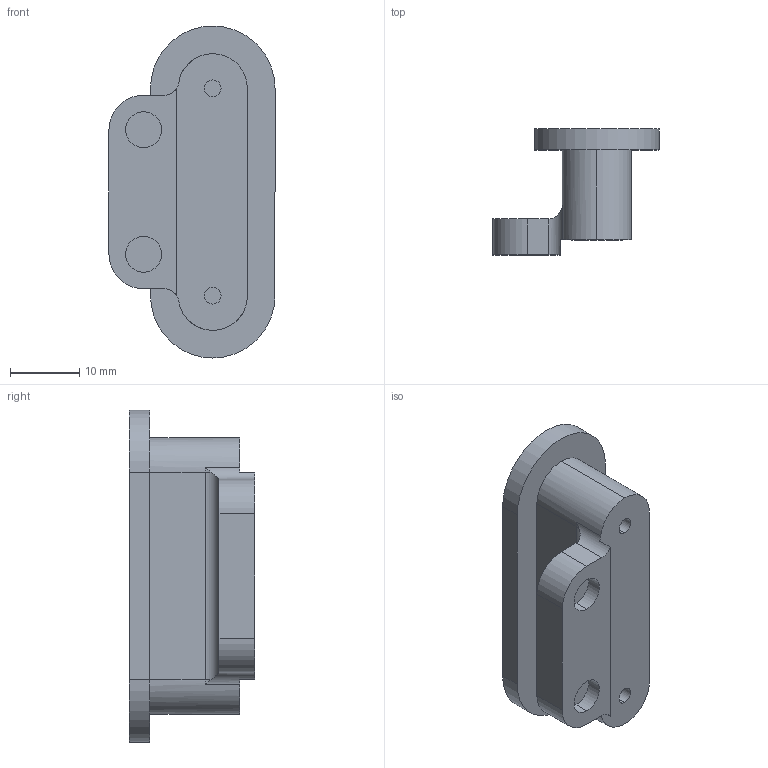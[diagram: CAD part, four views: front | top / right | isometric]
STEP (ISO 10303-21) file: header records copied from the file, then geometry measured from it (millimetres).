
FILE_DESCRIPTION (( 'STEP AP203' ), '1' );
FILE_NAME ('ヶ藷參忒.STEP', '2024-01-02T07:34:36', ( '' ), ( '' ), 'SwSTEP 2.0', 'SolidWorks 2014', '' );
FILE_SCHEMA (( 'CONFIG_CONTROL_DESIGN' ));
Length unit declared in the file: millimetre
Products named in the file (1): ヶ藷參忒
Bounding box: 24 x 18.2 x 48 mm (x, y, z)
Volume: 8540.4 mm3; surface area: 4072 mm2
Topology: 1 solids, 1 shells, 38 faces, 91 edges, 60 vertices
Faces by surface type: cylinder 19, plane 17, torus 2
Entity records: 1216 total; most frequent: CARTESIAN_POINT 216, DIRECTION 207, ORIENTED_EDGE 182, EDGE_CURVE 91, AXIS2_PLACEMENT_3D 81, VERTEX_POINT 60, LINE 45, VECTOR 45
